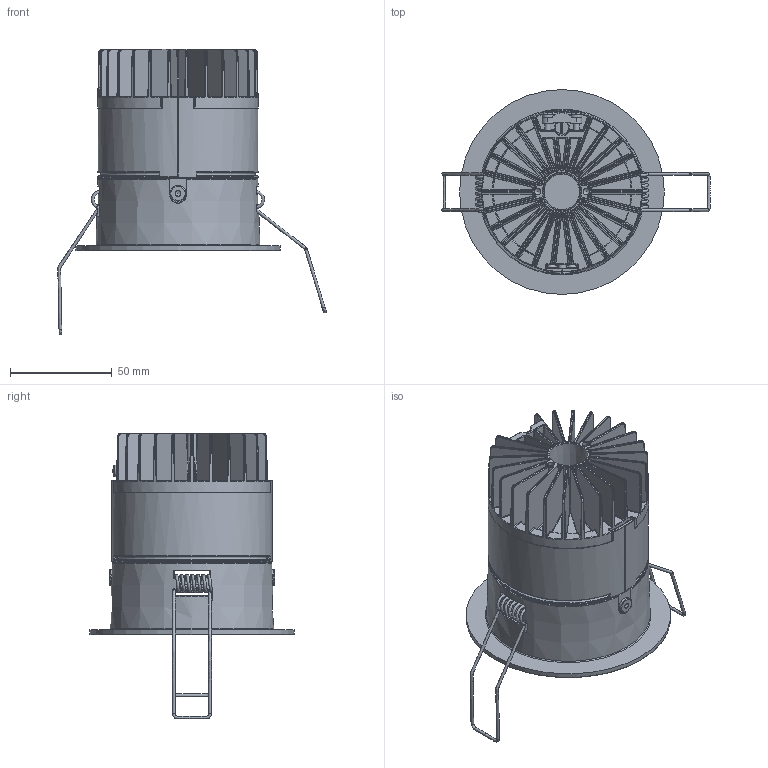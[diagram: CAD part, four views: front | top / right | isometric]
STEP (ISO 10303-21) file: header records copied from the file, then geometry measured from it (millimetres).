
FILE_DESCRIPTION(/* description */ ('Unknown'),/* implementation_level */ '2;1');
FILE_NAME(/* name */ 'Ambiane SP',/* time_stamp */ '2021-10-19T08:41:56+02:00',/* author */ ('Unknown'),/* organization */ ('Unknown'),/* preprocessor_version */ 'ST-DEVELOPER v16.7',/* originating_system */ 'Solid Edge',/* authorisation */ 'Unknown');
FILE_SCHEMA (('AUTOMOTIVE_DESIGN {1 0 10303 214 3 1 1}'));
Products named in the file (1): Ambiane SP
Bounding box: 131.98 x 100.69 x 140.59 mm (x, y, z)
Volume: 115514.4 mm3; surface area: 113126.5 mm2
Topology: 2 solids, 6 shells, 1748 faces, 4324 edges, 2432 vertices
Faces by surface type: bspline 546, cylinder 365, plane 357, torus 222, sphere 142, cone 116
Full cylindrical faces by diameter (mm): 1.4 x7, 2.013 x8, 2.459 x2, 2.5 x4, 3 x2, 3.2 x2, 3.242 x8, 4 x2, 4.7 x4, 5.6 x2, 7.8 x2, 73 x1
Entity records: 79248 total; most frequent: CARTESIAN_POINT 31573, ORIENTED_EDGE 8076, DIRECTION 6781, EDGE_CURVE 4038, AXIS2_PLACEMENT_3D 2934, VERTEX_POINT 2388, FACE_BOUND 1886, EDGE_LOOP 1876
